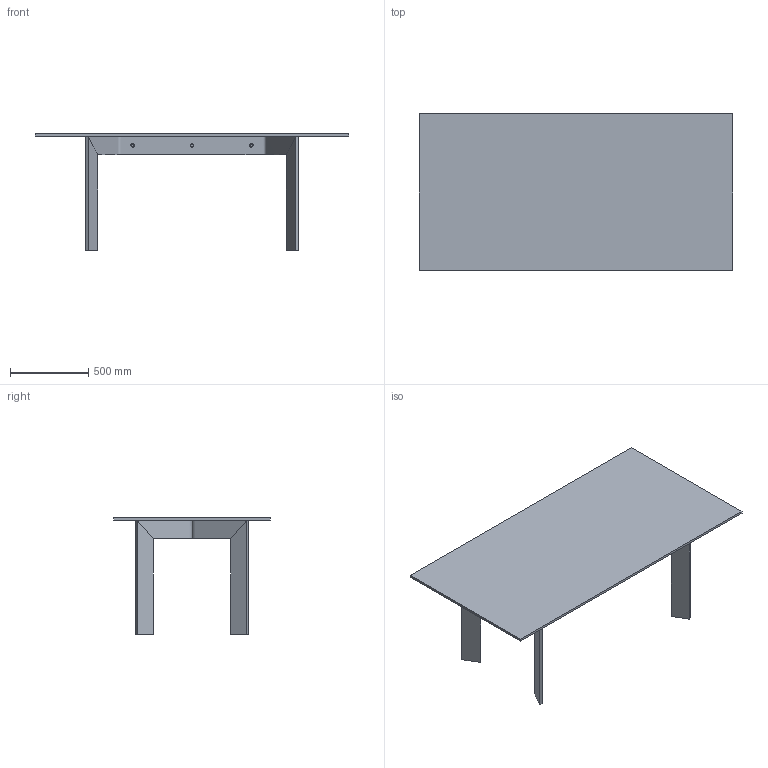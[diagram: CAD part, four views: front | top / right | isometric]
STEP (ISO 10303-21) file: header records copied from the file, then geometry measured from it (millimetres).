
FILE_DESCRIPTION(/* description */ (''),/* implementation_level */ '2;1');
FILE_NAME(/* name */ 'CR20 - Cross 200x100',/* time_stamp */ '2012-06-19T16:39:40+02:00',/* author */ (''),/* organization */ (''),/* preprocessor_version */ 'ST-DEVELOPER v10',/* originating_system */ '',/* authorisation */ '');
FILE_SCHEMA (('CONFIG_CONTROL_DESIGN'));
Length unit declared in the file: millimetre
Products named in the file (1): 1
Bounding box: 2000 x 1000 x 745 mm (x, y, z)
Volume: 46028969.7 mm3; surface area: 5848757 mm2
Topology: 19 solids, 19 shells, 236 faces, 474 edges, 288 vertices
Faces by surface type: bspline 162, plane 74
Entity records: 6742 total; most frequent: CARTESIAN_POINT 3764, ORIENTED_EDGE 948, EDGE_CURVE 474, VERTEX_POINT 288, EDGE_LOOP 272, ADVANCED_FACE 236, FACE_OUTER_BOUND 236, B_SPLINE_CURVE_WITH_KNOTS 138
